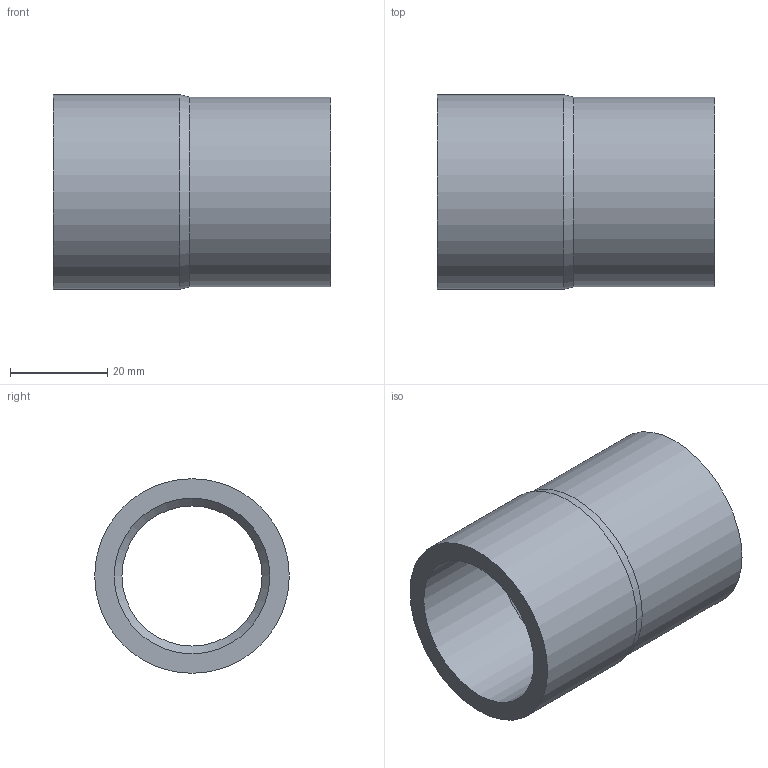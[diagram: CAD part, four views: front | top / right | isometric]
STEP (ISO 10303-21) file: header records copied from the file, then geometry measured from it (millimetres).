
FILE_DESCRIPTION(/* description */ ('PLASSON REDUCING SOCKET M.F.40(32)32 CEMENTED'),/* implementation_level */ '2;1');
FILE_NAME(/* name */ 'C:\Dropbox\KIMPROJECTS-Inventor\99-16-3568-Processing\PVC Catalog 2017\050200\050200040032.ipt.stp',/* time_stamp */ '2017-12-07T15:52:28+02:00',/* author */ ('KIM'),/* organization */ (''),/* preprocessor_version */ 'ST-DEVELOPER v15.6',/* originating_system */ 'Autodesk Inventor 2015',/* authorisation */ '');
FILE_SCHEMA (('AUTOMOTIVE_DESIGN { 1 0 10303 214 3 1 1 }'));
Length unit declared in the file: millimetre
Products named in the file (1): 050200040032
Bounding box: 57 x 40 x 40 mm (x, y, z)
Volume: 24721.3 mm3; surface area: 13813 mm2
Topology: 1 solids, 1 shells, 10 faces, 17 edges, 10 vertices
Faces by surface type: cylinder 5, plane 3, cone 2
Full cylindrical faces by diameter (mm): 28.8 x1, 32 x2, 39 x1, 40 x1
Entity records: 232 total; most frequent: DIRECTION 42, CARTESIAN_POINT 31, AXIS2_PLACEMENT_3D 21, EDGE_LOOP 20, ORIENTED_EDGE 20, FACE_BOUND 10, FACE_OUTER_BOUND 10, CIRCLE 10
